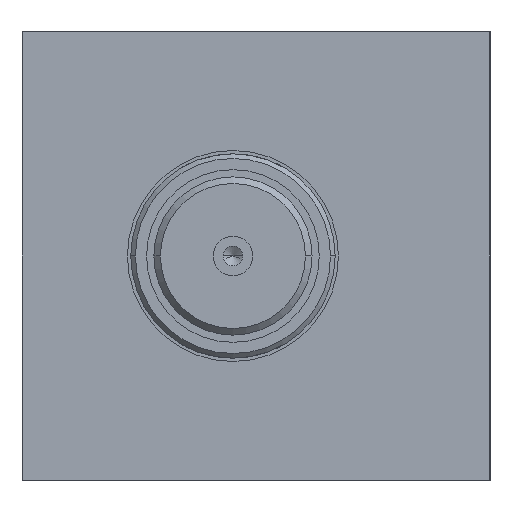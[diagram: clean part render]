
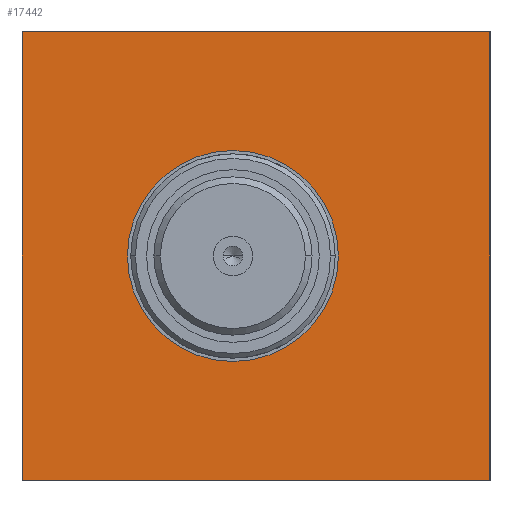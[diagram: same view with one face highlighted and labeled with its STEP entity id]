
A CAD part, left-side view. The second image highlights one B-rep face of the part: STEP entity #17442.
In plain terms, the highlighted planar face has unit normal (-1, 0, 0).
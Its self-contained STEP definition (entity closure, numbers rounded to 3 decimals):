
#245 = EDGE_CURVE ( 'NONE', #6339, #7523, #3094, .T. ) ;
#459 = CARTESIAN_POINT ( 'NONE',  ( 0., 35.5, 34. ) ) ;
#553 = CARTESIAN_POINT ( 'NONE',  ( 0., -35.5, -34. ) ) ;
#1487 = FACE_BOUND ( 'NONE', #21400, .T. ) ;
#1882 = VERTEX_POINT ( 'NONE', #18280 ) ;
#2320 = LINE ( 'NONE', #553, #16979 ) ;
#3094 = LINE ( 'NONE', #11601, #17628 ) ;
#3746 = VECTOR ( 'NONE', #23183, 1000. ) ;
#4480 = CARTESIAN_POINT ( 'NONE',  ( 0., 3.5, 0. ) ) ;
#6339 = VERTEX_POINT ( 'NONE', #21436 ) ;
#6481 = LINE ( 'NONE', #9266, #3746 ) ;
#6709 = DIRECTION ( 'NONE',  ( 0., -1., 0. ) ) ;
#7043 = EDGE_LOOP ( 'NONE', ( #19312, #26134, #15340, #7626 ) ) ;
#7195 = AXIS2_PLACEMENT_3D ( 'NONE', #4480, #18839, #6709 ) ;
#7523 = VERTEX_POINT ( 'NONE', #459 ) ;
#7626 = ORIENTED_EDGE ( 'NONE', *, *, #245, .F. ) ;
#7991 = EDGE_CURVE ( 'NONE', #1882, #15725, #13030, .T. ) ;
#8528 = CARTESIAN_POINT ( 'NONE',  ( 0., 3.5, 0. ) ) ;
#8564 = DIRECTION ( 'NONE',  ( -1., 0., 0. ) ) ;
#9266 = CARTESIAN_POINT ( 'NONE',  ( 0., -35.5, 34. ) ) ;
#10602 = DIRECTION ( 'NONE',  ( 0., -1., 0. ) ) ;
#10804 = CARTESIAN_POINT ( 'NONE',  ( 0., -35.5, 34. ) ) ;
#11601 = CARTESIAN_POINT ( 'NONE',  ( 0., 35.5, 34. ) ) ;
#12618 = PLANE ( 'NONE',  #13150 ) ;
#13015 = DIRECTION ( 'NONE',  ( 0., 0., 1. ) ) ;
#13030 = CIRCLE ( 'NONE', #7195, 16. ) ;
#13150 = AXIS2_PLACEMENT_3D ( 'NONE', #20584, #8564, #22524 ) ;
#13205 = DIRECTION ( 'NONE',  ( 0., 1., 0. ) ) ;
#14906 = DIRECTION ( 'NONE',  ( 0., -1., 0. ) ) ;
#15340 = ORIENTED_EDGE ( 'NONE', *, *, #17490, .F. ) ;
#15725 = VERTEX_POINT ( 'NONE', #20930 ) ;
#16194 = ORIENTED_EDGE ( 'NONE', *, *, #24533, .F. ) ;
#16485 = VECTOR ( 'NONE', #14906, 1000. ) ;
#16594 = CARTESIAN_POINT ( 'NONE',  ( 0., -35.5, -34. ) ) ;
#16979 = VECTOR ( 'NONE', #13205, 1000. ) ;
#17442 = ADVANCED_FACE ( 'NONE', ( #18967, #1487 ), #12618, .T. ) ;
#17445 = CIRCLE ( 'NONE', #23229, 16. ) ;
#17490 = EDGE_CURVE ( 'NONE', #7523, #21693, #23782, .T. ) ;
#17628 = VECTOR ( 'NONE', #13015, 1000. ) ;
#18280 = CARTESIAN_POINT ( 'NONE',  ( 0., -12.5, 0. ) ) ;
#18295 = CARTESIAN_POINT ( 'NONE',  ( 0., -35.5, 34. ) ) ;
#18839 = DIRECTION ( 'NONE',  ( -1., 0., 0. ) ) ;
#18967 = FACE_OUTER_BOUND ( 'NONE', #7043, .T. ) ;
#19312 = ORIENTED_EDGE ( 'NONE', *, *, #20588, .F. ) ;
#20584 = CARTESIAN_POINT ( 'NONE',  ( 0., 0., 0. ) ) ;
#20588 = EDGE_CURVE ( 'NONE', #25291, #6339, #2320, .T. ) ;
#20930 = CARTESIAN_POINT ( 'NONE',  ( 0., 19.5, 0. ) ) ;
#21400 = EDGE_LOOP ( 'NONE', ( #22005, #16194 ) ) ;
#21436 = CARTESIAN_POINT ( 'NONE',  ( 0., 35.5, -34. ) ) ;
#21693 = VERTEX_POINT ( 'NONE', #18295 ) ;
#22005 = ORIENTED_EDGE ( 'NONE', *, *, #7991, .F. ) ;
#22500 = DIRECTION ( 'NONE',  ( -1., 0., 0. ) ) ;
#22524 = DIRECTION ( 'NONE',  ( 0., 0., 1. ) ) ;
#23183 = DIRECTION ( 'NONE',  ( 0., 0., -1. ) ) ;
#23229 = AXIS2_PLACEMENT_3D ( 'NONE', #8528, #22500, #10602 ) ;
#23782 = LINE ( 'NONE', #10804, #16485 ) ;
#24533 = EDGE_CURVE ( 'NONE', #15725, #1882, #17445, .T. ) ;
#25291 = VERTEX_POINT ( 'NONE', #16594 ) ;
#26012 = EDGE_CURVE ( 'NONE', #21693, #25291, #6481, .T. ) ;
#26134 = ORIENTED_EDGE ( 'NONE', *, *, #26012, .F. ) ;
